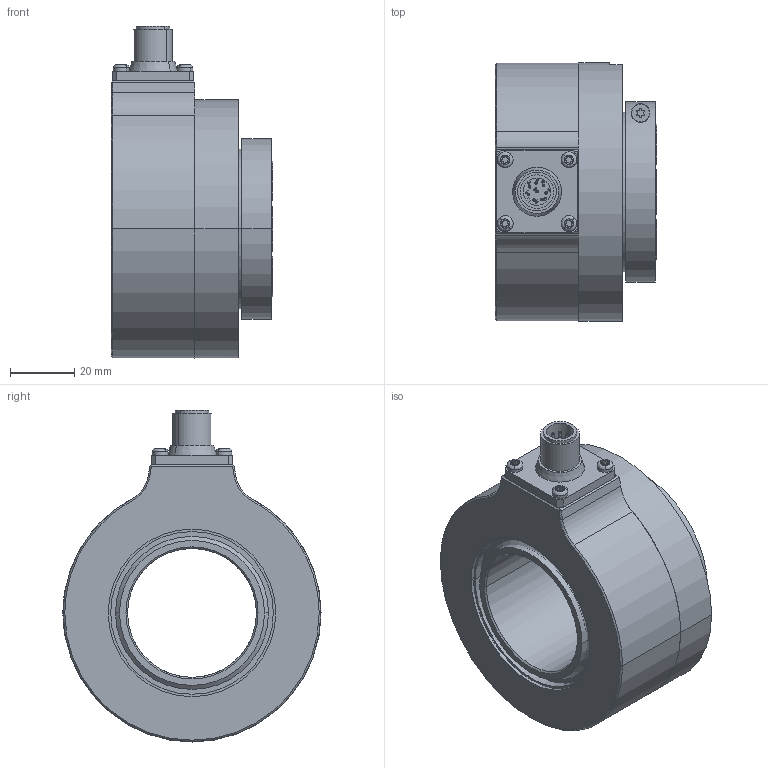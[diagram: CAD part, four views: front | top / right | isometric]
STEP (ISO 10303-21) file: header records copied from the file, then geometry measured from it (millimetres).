
FILE_DESCRIPTION (( 'STEP AP203' ), '1' );
FILE_NAME ('K80I.OXX.XXXXX.XH10840.6XRC5.step', '2025-12-09T07:28:49', ( '' ), ( '' ), 'SwSTEP 2.0', 'SolidWorks 2021', '' );
FILE_SCHEMA (( 'CONFIG_CONTROL_DESIGN' ));
Length unit declared in the file: millimetre
Products named in the file (1): K80I.OXX.XXXXX.XH10840.6XRC5
Bounding box: 50.2 x 80.15 x 103.08 mm (x, y, z)
Volume: 169945.5 mm3; surface area: 56971.4 mm2
Topology: 6 solids, 6 shells, 467 faces, 1225 edges, 789 vertices
Faces by surface type: cylinder 180, plane 163, bspline 70, cone 38, sphere 16
Entity records: 18464 total; most frequent: CARTESIAN_POINT 7252, ORIENTED_EDGE 2370, DIRECTION 2231, EDGE_CURVE 1185, AXIS2_PLACEMENT_3D 820, VERTEX_POINT 773, VECTOR 591, LINE 591
